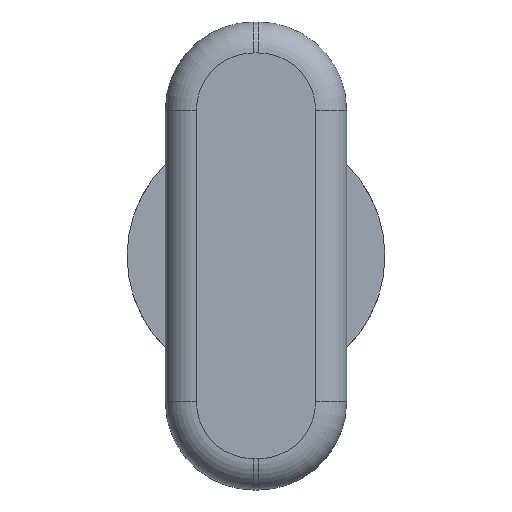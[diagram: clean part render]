
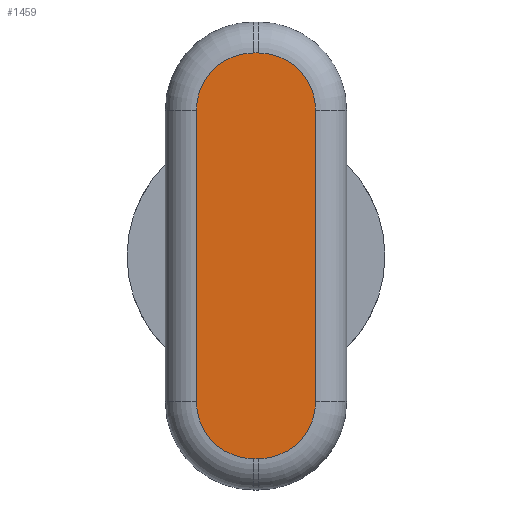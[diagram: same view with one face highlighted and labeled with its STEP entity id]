
A CAD part, top view. The second image highlights one B-rep face of the part: STEP entity #1459.
In plain terms, the highlighted planar face has unit normal (0, 0, 1) as drawn and (0, 0, -1) by its records, which use the part's own axes.
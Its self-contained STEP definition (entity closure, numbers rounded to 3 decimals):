
#473 = CYLINDRICAL_SURFACE('',#474,0.65);
#474 = AXIS2_PLACEMENT_3D('',#475,#476,#477);
#475 = CARTESIAN_POINT('',(1.25,3.475,0.23));
#476 = DIRECTION('',(0.,1.,0.));
#477 = DIRECTION('',(0.707,0.,-0.707));
#754 = VERTEX_POINT('',#755);
#755 = CARTESIAN_POINT('',(-1.25,8.05,-0.42));
#763 = CYLINDRICAL_SURFACE('',#764,0.65);
#764 = AXIS2_PLACEMENT_3D('',#765,#766,#767);
#765 = CARTESIAN_POINT('',(-1.25,6.525,0.23));
#766 = DIRECTION('',(0.,-1.,0.));
#767 = DIRECTION('',(-0.707,-0.,-0.707));
#775 = TOROIDAL_SURFACE('',#776,1.2,0.65);
#776 = AXIS2_PLACEMENT_3D('',#777,#778,#779);
#777 = CARTESIAN_POINT('',(-0.05,8.05,0.23));
#778 = DIRECTION('',(0.,0.,1.));
#779 = DIRECTION('',(1.,0.,-0.));
#787 = EDGE_CURVE('',#754,#788,#790,.T.);
#788 = VERTEX_POINT('',#789);
#789 = CARTESIAN_POINT('',(-1.25,1.95,-0.42));
#790 = SURFACE_CURVE('',#791,(#795,#802),.PCURVE_S1.);
#791 = LINE('',#792,#793);
#792 = CARTESIAN_POINT('',(-1.25,6.525,-0.42));
#793 = VECTOR('',#794,1.);
#794 = DIRECTION('',(0.,-1.,0.));
#795 = PCURVE('',#763,#796);
#796 = DEFINITIONAL_REPRESENTATION('',(#797),#801);
#797 = LINE('',#798,#799);
#798 = CARTESIAN_POINT('',(7.069,0.));
#799 = VECTOR('',#800,1.);
#800 = DIRECTION('',(0.,1.));
#801 = ( GEOMETRIC_REPRESENTATION_CONTEXT(2) 
PARAMETRIC_REPRESENTATION_CONTEXT() REPRESENTATION_CONTEXT('2D SPACE',''
  ) );
#802 = PCURVE('',#803,#808);
#803 = PLANE('',#804);
#804 = AXIS2_PLACEMENT_3D('',#805,#806,#807);
#805 = CARTESIAN_POINT('',(0.,5.,-0.42));
#806 = DIRECTION('',(0.,0.,1.));
#807 = DIRECTION('',(1.,0.,-0.));
#808 = DEFINITIONAL_REPRESENTATION('',(#809),#813);
#809 = LINE('',#810,#811);
#810 = CARTESIAN_POINT('',(-1.25,1.525));
#811 = VECTOR('',#812,1.);
#812 = DIRECTION('',(0.,-1.));
#813 = ( GEOMETRIC_REPRESENTATION_CONTEXT(2) 
PARAMETRIC_REPRESENTATION_CONTEXT() REPRESENTATION_CONTEXT('2D SPACE',''
  ) );
#832 = TOROIDAL_SURFACE('',#833,1.2,0.65);
#833 = AXIS2_PLACEMENT_3D('',#834,#835,#836);
#834 = CARTESIAN_POINT('',(-0.05,1.95,0.23));
#835 = DIRECTION('',(0.,0.,1.));
#836 = DIRECTION('',(1.,0.,-0.));
#869 = VERTEX_POINT('',#870);
#870 = CARTESIAN_POINT('',(-0.05,0.75,-0.42));
#887 = CYLINDRICAL_SURFACE('',#888,0.65);
#888 = AXIS2_PLACEMENT_3D('',#889,#890,#891);
#889 = CARTESIAN_POINT('',(-0.025,0.75,0.23));
#890 = DIRECTION('',(1.,0.,0.));
#891 = DIRECTION('',(0.,-0.707,-0.707));
#922 = EDGE_CURVE('',#788,#869,#923,.T.);
#923 = SURFACE_CURVE('',#924,(#929,#936),.PCURVE_S1.);
#924 = CIRCLE('',#925,1.2);
#925 = AXIS2_PLACEMENT_3D('',#926,#927,#928);
#926 = CARTESIAN_POINT('',(-0.05,1.95,-0.42));
#927 = DIRECTION('',(0.,0.,1.));
#928 = DIRECTION('',(-0.707,-0.707,0.));
#929 = PCURVE('',#832,#930);
#930 = DEFINITIONAL_REPRESENTATION('',(#931),#935);
#931 = LINE('',#932,#933);
#932 = CARTESIAN_POINT('',(-2.356,4.712));
#933 = VECTOR('',#934,1.);
#934 = DIRECTION('',(1.,0.));
#935 = ( GEOMETRIC_REPRESENTATION_CONTEXT(2) 
PARAMETRIC_REPRESENTATION_CONTEXT() REPRESENTATION_CONTEXT('2D SPACE',''
  ) );
#936 = PCURVE('',#803,#937);
#937 = DEFINITIONAL_REPRESENTATION('',(#938),#942);
#938 = CIRCLE('',#939,1.2);
#939 = AXIS2_PLACEMENT_2D('',#940,#941);
#940 = CARTESIAN_POINT('',(-0.05,-3.05));
#941 = DIRECTION('',(-0.707,-0.707));
#942 = ( GEOMETRIC_REPRESENTATION_CONTEXT(2) 
PARAMETRIC_REPRESENTATION_CONTEXT() REPRESENTATION_CONTEXT('2D SPACE',''
  ) );
#948 = VERTEX_POINT('',#949);
#949 = CARTESIAN_POINT('',(0.05,0.75,-0.42));
#966 = TOROIDAL_SURFACE('',#967,1.2,0.65);
#967 = AXIS2_PLACEMENT_3D('',#968,#969,#970);
#968 = CARTESIAN_POINT('',(0.05,1.95,0.23));
#969 = DIRECTION('',(0.,0.,1.));
#970 = DIRECTION('',(1.,0.,-0.));
#1000 = EDGE_CURVE('',#869,#948,#1001,.T.);
#1001 = SURFACE_CURVE('',#1002,(#1006,#1013),.PCURVE_S1.);
#1002 = LINE('',#1003,#1004);
#1003 = CARTESIAN_POINT('',(-0.025,0.75,-0.42));
#1004 = VECTOR('',#1005,1.);
#1005 = DIRECTION('',(1.,0.,0.));
#1006 = PCURVE('',#887,#1007);
#1007 = DEFINITIONAL_REPRESENTATION('',(#1008),#1012);
#1008 = LINE('',#1009,#1010);
#1009 = CARTESIAN_POINT('',(7.069,0.));
#1010 = VECTOR('',#1011,1.);
#1011 = DIRECTION('',(0.,1.));
#1012 = ( GEOMETRIC_REPRESENTATION_CONTEXT(2) 
PARAMETRIC_REPRESENTATION_CONTEXT() REPRESENTATION_CONTEXT('2D SPACE',''
  ) );
#1013 = PCURVE('',#803,#1014);
#1014 = DEFINITIONAL_REPRESENTATION('',(#1015),#1019);
#1015 = LINE('',#1016,#1017);
#1016 = CARTESIAN_POINT('',(-0.025,-4.25));
#1017 = VECTOR('',#1018,1.);
#1018 = DIRECTION('',(1.,0.));
#1019 = ( GEOMETRIC_REPRESENTATION_CONTEXT(2) 
PARAMETRIC_REPRESENTATION_CONTEXT() REPRESENTATION_CONTEXT('2D SPACE',''
  ) );
#1025 = VERTEX_POINT('',#1026);
#1026 = CARTESIAN_POINT('',(1.25,1.95,-0.42));
#1071 = EDGE_CURVE('',#948,#1025,#1072,.T.);
#1072 = SURFACE_CURVE('',#1073,(#1078,#1085),.PCURVE_S1.);
#1073 = CIRCLE('',#1074,1.2);
#1074 = AXIS2_PLACEMENT_3D('',#1075,#1076,#1077);
#1075 = CARTESIAN_POINT('',(0.05,1.95,-0.42));
#1076 = DIRECTION('',(0.,0.,1.));
#1077 = DIRECTION('',(0.707,-0.707,0.));
#1078 = PCURVE('',#966,#1079);
#1079 = DEFINITIONAL_REPRESENTATION('',(#1080),#1084);
#1080 = LINE('',#1081,#1082);
#1081 = CARTESIAN_POINT('',(-0.785,4.712));
#1082 = VECTOR('',#1083,1.);
#1083 = DIRECTION('',(1.,0.));
#1084 = ( GEOMETRIC_REPRESENTATION_CONTEXT(2) 
PARAMETRIC_REPRESENTATION_CONTEXT() REPRESENTATION_CONTEXT('2D SPACE',''
  ) );
#1085 = PCURVE('',#803,#1086);
#1086 = DEFINITIONAL_REPRESENTATION('',(#1087),#1091);
#1087 = CIRCLE('',#1088,1.2);
#1088 = AXIS2_PLACEMENT_2D('',#1089,#1090);
#1089 = CARTESIAN_POINT('',(0.05,-3.05));
#1090 = DIRECTION('',(0.707,-0.707));
#1091 = ( GEOMETRIC_REPRESENTATION_CONTEXT(2) 
PARAMETRIC_REPRESENTATION_CONTEXT() REPRESENTATION_CONTEXT('2D SPACE',''
  ) );
#1097 = VERTEX_POINT('',#1098);
#1098 = CARTESIAN_POINT('',(1.25,8.05,-0.42));
#1113 = TOROIDAL_SURFACE('',#1114,1.2,0.65);
#1114 = AXIS2_PLACEMENT_3D('',#1115,#1116,#1117);
#1115 = CARTESIAN_POINT('',(0.05,8.05,0.23));
#1116 = DIRECTION('',(0.,0.,1.));
#1117 = DIRECTION('',(1.,0.,-0.));
#1127 = EDGE_CURVE('',#1025,#1097,#1128,.T.);
#1128 = SURFACE_CURVE('',#1129,(#1133,#1140),.PCURVE_S1.);
#1129 = LINE('',#1130,#1131);
#1130 = CARTESIAN_POINT('',(1.25,3.475,-0.42));
#1131 = VECTOR('',#1132,1.);
#1132 = DIRECTION('',(0.,1.,0.));
#1133 = PCURVE('',#473,#1134);
#1134 = DEFINITIONAL_REPRESENTATION('',(#1135),#1139);
#1135 = LINE('',#1136,#1137);
#1136 = CARTESIAN_POINT('',(7.069,0.));
#1137 = VECTOR('',#1138,1.);
#1138 = DIRECTION('',(0.,1.));
#1139 = ( GEOMETRIC_REPRESENTATION_CONTEXT(2) 
PARAMETRIC_REPRESENTATION_CONTEXT() REPRESENTATION_CONTEXT('2D SPACE',''
  ) );
#1140 = PCURVE('',#803,#1141);
#1141 = DEFINITIONAL_REPRESENTATION('',(#1142),#1146);
#1142 = LINE('',#1143,#1144);
#1143 = CARTESIAN_POINT('',(1.25,-1.525));
#1144 = VECTOR('',#1145,1.);
#1145 = DIRECTION('',(0.,1.));
#1146 = ( GEOMETRIC_REPRESENTATION_CONTEXT(2) 
PARAMETRIC_REPRESENTATION_CONTEXT() REPRESENTATION_CONTEXT('2D SPACE',''
  ) );
#1152 = VERTEX_POINT('',#1153);
#1153 = CARTESIAN_POINT('',(0.05,9.25,-0.42));
#1170 = CYLINDRICAL_SURFACE('',#1171,0.65);
#1171 = AXIS2_PLACEMENT_3D('',#1172,#1173,#1174);
#1172 = CARTESIAN_POINT('',(0.025,9.25,0.23));
#1173 = DIRECTION('',(-1.,0.,0.));
#1174 = DIRECTION('',(0.,0.707,-0.707));
#1205 = EDGE_CURVE('',#1097,#1152,#1206,.T.);
#1206 = SURFACE_CURVE('',#1207,(#1212,#1219),.PCURVE_S1.);
#1207 = CIRCLE('',#1208,1.2);
#1208 = AXIS2_PLACEMENT_3D('',#1209,#1210,#1211);
#1209 = CARTESIAN_POINT('',(0.05,8.05,-0.42));
#1210 = DIRECTION('',(0.,0.,1.));
#1211 = DIRECTION('',(0.707,0.707,-0.));
#1212 = PCURVE('',#1113,#1213);
#1213 = DEFINITIONAL_REPRESENTATION('',(#1214),#1218);
#1214 = LINE('',#1215,#1216);
#1215 = CARTESIAN_POINT('',(-5.498,4.712));
#1216 = VECTOR('',#1217,1.);
#1217 = DIRECTION('',(1.,0.));
#1218 = ( GEOMETRIC_REPRESENTATION_CONTEXT(2) 
PARAMETRIC_REPRESENTATION_CONTEXT() REPRESENTATION_CONTEXT('2D SPACE',''
  ) );
#1219 = PCURVE('',#803,#1220);
#1220 = DEFINITIONAL_REPRESENTATION('',(#1221),#1225);
#1221 = CIRCLE('',#1222,1.2);
#1222 = AXIS2_PLACEMENT_2D('',#1223,#1224);
#1223 = CARTESIAN_POINT('',(0.05,3.05));
#1224 = DIRECTION('',(0.707,0.707));
#1225 = ( GEOMETRIC_REPRESENTATION_CONTEXT(2) 
PARAMETRIC_REPRESENTATION_CONTEXT() REPRESENTATION_CONTEXT('2D SPACE',''
  ) );
#1231 = VERTEX_POINT('',#1232);
#1232 = CARTESIAN_POINT('',(-0.05,9.25,-0.42));
#1278 = EDGE_CURVE('',#1152,#1231,#1279,.T.);
#1279 = SURFACE_CURVE('',#1280,(#1284,#1291),.PCURVE_S1.);
#1280 = LINE('',#1281,#1282);
#1281 = CARTESIAN_POINT('',(0.025,9.25,-0.42));
#1282 = VECTOR('',#1283,1.);
#1283 = DIRECTION('',(-1.,0.,0.));
#1284 = PCURVE('',#1170,#1285);
#1285 = DEFINITIONAL_REPRESENTATION('',(#1286),#1290);
#1286 = LINE('',#1287,#1288);
#1287 = CARTESIAN_POINT('',(7.069,0.));
#1288 = VECTOR('',#1289,1.);
#1289 = DIRECTION('',(0.,1.));
#1290 = ( GEOMETRIC_REPRESENTATION_CONTEXT(2) 
PARAMETRIC_REPRESENTATION_CONTEXT() REPRESENTATION_CONTEXT('2D SPACE',''
  ) );
#1291 = PCURVE('',#803,#1292);
#1292 = DEFINITIONAL_REPRESENTATION('',(#1293),#1297);
#1293 = LINE('',#1294,#1295);
#1294 = CARTESIAN_POINT('',(0.025,4.25));
#1295 = VECTOR('',#1296,1.);
#1296 = DIRECTION('',(-1.,0.));
#1297 = ( GEOMETRIC_REPRESENTATION_CONTEXT(2) 
PARAMETRIC_REPRESENTATION_CONTEXT() REPRESENTATION_CONTEXT('2D SPACE',''
  ) );
#1326 = EDGE_CURVE('',#1231,#754,#1327,.T.);
#1327 = SURFACE_CURVE('',#1328,(#1333,#1340),.PCURVE_S1.);
#1328 = CIRCLE('',#1329,1.2);
#1329 = AXIS2_PLACEMENT_3D('',#1330,#1331,#1332);
#1330 = CARTESIAN_POINT('',(-0.05,8.05,-0.42));
#1331 = DIRECTION('',(0.,0.,1.));
#1332 = DIRECTION('',(-0.707,0.707,0.));
#1333 = PCURVE('',#775,#1334);
#1334 = DEFINITIONAL_REPRESENTATION('',(#1335),#1339);
#1335 = LINE('',#1336,#1337);
#1336 = CARTESIAN_POINT('',(-3.927,4.712));
#1337 = VECTOR('',#1338,1.);
#1338 = DIRECTION('',(1.,0.));
#1339 = ( GEOMETRIC_REPRESENTATION_CONTEXT(2) 
PARAMETRIC_REPRESENTATION_CONTEXT() REPRESENTATION_CONTEXT('2D SPACE',''
  ) );
#1340 = PCURVE('',#803,#1341);
#1341 = DEFINITIONAL_REPRESENTATION('',(#1342),#1346);
#1342 = CIRCLE('',#1343,1.2);
#1343 = AXIS2_PLACEMENT_2D('',#1344,#1345);
#1344 = CARTESIAN_POINT('',(-0.05,3.05));
#1345 = DIRECTION('',(-0.707,0.707));
#1346 = ( GEOMETRIC_REPRESENTATION_CONTEXT(2) 
PARAMETRIC_REPRESENTATION_CONTEXT() REPRESENTATION_CONTEXT('2D SPACE',''
  ) );
#1459 = ADVANCED_FACE('',(#1460),#803,.F.);
#1460 = FACE_BOUND('',#1461,.T.);
#1461 = EDGE_LOOP('',(#1462,#1463,#1464,#1465,#1466,#1467,#1468,#1469));
#1462 = ORIENTED_EDGE('',*,*,#787,.F.);
#1463 = ORIENTED_EDGE('',*,*,#1326,.F.);
#1464 = ORIENTED_EDGE('',*,*,#1278,.F.);
#1465 = ORIENTED_EDGE('',*,*,#1205,.F.);
#1466 = ORIENTED_EDGE('',*,*,#1127,.F.);
#1467 = ORIENTED_EDGE('',*,*,#1071,.F.);
#1468 = ORIENTED_EDGE('',*,*,#1000,.F.);
#1469 = ORIENTED_EDGE('',*,*,#922,.F.);
